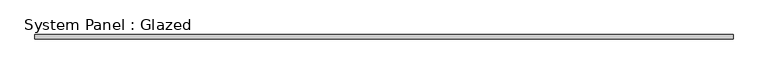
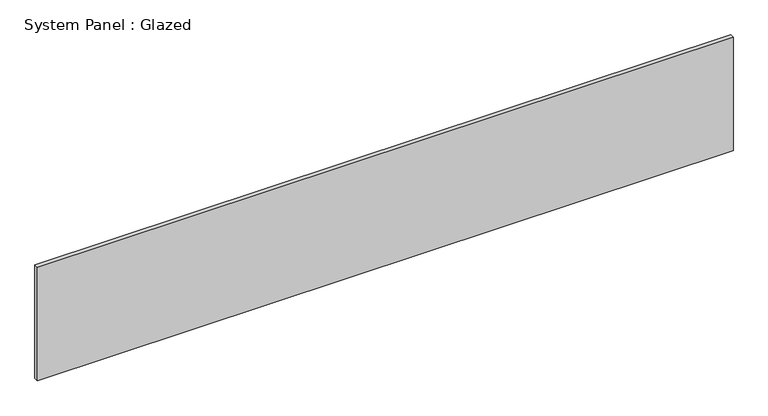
"""IFC4 building model written with IfcOpenShell, lengths in millimetres: plate geometry, System Panel : Glazed."""

import ifcopenshell
import ifcopenshell.guid

model = None  # the IFC model being written
_history = None  # IfcOwnerHistory: only IFC2X3 demands one
_inside = {}  # id of a spatial element -> (the spatial element, [elements in it])
_under = {}  # id of a project, library or spatial element -> (it, [spatial elements below it])
_declared = {}  # id of a project -> (the project, [libraries it declares])
_typed = {}  # id of a type object -> (the type object, [elements of that type])
_made_of = {}  # id of a material, layer set ... -> (it, [elements and type objects made of it])


def new_model(schema):
    """Start an empty IFC model of exactly this schema.

    Asked for "IFC4X3", IfcOpenShell would pick the latest addendum, in which some entities
    have other attributes; the version numbers below select the first issue.
    IFC2X3 requires an IfcOwnerHistory on every rooted entity: one is made here for all.
    """
    global model, _history
    if schema == "IFC4X3":
        model = ifcopenshell.file(schema_version=(4, 3, 0, 0))
    else:
        model = ifcopenshell.file(schema=schema)
    _inside.clear()
    _under.clear()
    _declared.clear()
    _typed.clear()
    _made_of.clear()
    _history = None
    if model.schema == "IFC2X3":
        org = make("IfcOrganization", Name="unknown")
        user = make(
            "IfcPersonAndOrganization",
            ThePerson=make("IfcPerson", FamilyName="unknown"),
            TheOrganization=org,
        )
        app = make(
            "IfcApplication",
            ApplicationDeveloper=org,
            Version="unknown",
            ApplicationFullName="unknown",
            ApplicationIdentifier="unknown",
        )
        _history = make(
            "IfcOwnerHistory",
            OwningUser=user,
            OwningApplication=app,
            ChangeAction="ADDED",
            CreationDate=0,
        )
    return model


def make(cls, **values):
    """One entity of the class cls with the attributes given. An attribute that is None is left unset."""
    return model.create_entity(
        cls, **{name: value for name, value in values.items() if value is not None}
    )


def rooted(cls, **values):
    """An entity with a GlobalId (a new one), such as an element, a storey or a relation."""
    return make(cls, GlobalId=ifcopenshell.guid.new(), OwnerHistory=_history, **values)


def si_unit(unit_type, name, prefix=None):
    """IfcSIUnit, for example si_unit("LENGTHUNIT", "METRE", prefix="MILLI")."""
    return make("IfcSIUnit", UnitType=unit_type, Prefix=prefix, Name=name)


def assignment(units):
    """IfcUnitAssignment: the units of a project."""
    return None if units is None else make("IfcUnitAssignment", Units=units)


def point(xyz):
    """IfcCartesianPoint."""
    return None if xyz is None else make("IfcCartesianPoint", Coordinates=xyz)


def direction(xyz):
    """IfcDirection."""
    return None if xyz is None else make("IfcDirection", DirectionRatios=xyz)


def frame(location, z_axis=None, x_axis=None):
    """IfcAxis2Placement3D, a coordinate frame: its origin and axes. An axis left out is left unset."""
    return make(
        "IfcAxis2Placement3D",
        Location=point(location),
        Axis=direction(z_axis),
        RefDirection=direction(x_axis),
    )


def origin():
    """The frame at (0, 0, 0) with its axes left unset."""
    return frame((0.0, 0.0, 0.0))


def origin_with_axes():
    """The frame at (0, 0, 0) with the z axis (0, 0, 1) and the x axis (1, 0, 0) written out."""
    return frame((0.0, 0.0, 0.0), z_axis=(0.0, 0.0, 1.0), x_axis=(1.0, 0.0, 0.0))


def place(relative_to, where):
    """IfcLocalPlacement: puts the frame where relative to a parent placement (None: the world)."""
    return make(
        "IfcLocalPlacement", PlacementRelTo=relative_to, RelativePlacement=where
    )


def context(
    kind, dimensions, precision=None, world=None, true_north=None, identifier=None
):
    """IfcGeometricRepresentationContext, for example the 3D "Model" context."""
    return make(
        "IfcGeometricRepresentationContext",
        ContextIdentifier=identifier,
        ContextType=kind,
        CoordinateSpaceDimension=dimensions,
        Precision=precision,
        WorldCoordinateSystem=world,
        TrueNorth=true_north,
    )


def project(units=None, contexts=None):
    """IfcProject with its units and contexts."""
    return rooted(
        "IfcProject",
        Name="project",
        RepresentationContexts=contexts,
        UnitsInContext=assignment(units),
    )


def spatial(cls, under=None, at=None, **own):
    """A site, building, storey or space (cls), placed at a placement, below another one or the project."""
    s = rooted(cls, ObjectPlacement=at, **own)
    if under is not None:
        _under.setdefault(under.id(), (under, []))[1].append(s)
    return s


def polyline(points):
    """IfcPolyline through the points."""
    return make("IfcPolyline", Points=[point(p) for p in points])


def outline(outer, holes=None, kind="AREA"):
    """IfcArbitraryClosedProfileDef: a profile drawn as a closed curve; with holes, ...WithVoids."""
    if holes is None:
        return make("IfcArbitraryClosedProfileDef", ProfileType=kind, OuterCurve=outer)
    return make(
        "IfcArbitraryProfileDefWithVoids",
        ProfileType=kind,
        OuterCurve=outer,
        InnerCurves=holes,
    )


def extrude(swept, where, along, depth):
    """IfcExtrudedAreaSolid: the profile swept, set in the frame where, extruded along a direction by depth."""
    return make(
        "IfcExtrudedAreaSolid",
        SweptArea=swept,
        Position=where,
        ExtrudedDirection=direction(along),
        Depth=depth,
    )


def shape(context_of_items, identifier, shape_type, items):
    """IfcShapeRepresentation: the items that make up one representation, for example the "Body"."""
    return make(
        "IfcShapeRepresentation",
        ContextOfItems=context_of_items,
        RepresentationIdentifier=identifier,
        RepresentationType=shape_type,
        Items=items,
    )


def source(mapping_origin, context_of_items, identifier, shape_type, items):
    """IfcRepresentationMap: a shape defined once, which mapped items show again and again."""
    return make(
        "IfcRepresentationMap",
        MappingOrigin=mapping_origin,
        MappedRepresentation=shape(context_of_items, identifier, shape_type, items),
    )


def transform(
    local_origin,
    x_axis=None,
    y_axis=None,
    z_axis=None,
    scale=None,
    scale2=None,
    scale3=None,
    uniform=True,
):
    """IfcCartesianTransformationOperator3D, or its non-uniform kind. x_axis, y_axis, z_axis: its Axis1, 2, 3."""
    if uniform:
        return make(
            "IfcCartesianTransformationOperator3D",
            Axis1=direction(x_axis),
            Axis2=direction(y_axis),
            LocalOrigin=point(local_origin),
            Scale=scale,
            Axis3=direction(z_axis),
        )
    return make(
        "IfcCartesianTransformationOperator3DnonUniform",
        Axis1=direction(x_axis),
        Axis2=direction(y_axis),
        LocalOrigin=point(local_origin),
        Scale=scale,
        Axis3=direction(z_axis),
        Scale2=scale2,
        Scale3=scale3,
    )


def mapped(mapping_source, mapping_target):
    """IfcMappedItem: shows the shape of a source again, moved by a transform."""
    return make(
        "IfcMappedItem", MappingSource=mapping_source, MappingTarget=mapping_target
    )


def made_of(thing, what):
    """Note that an element or type object is made of a material, layer set ...; save() writes the relation."""
    if what is not None:
        _made_of.setdefault(what.id(), (what, []))[1].append(thing)
    return thing


def element(
    cls,
    number,
    at=None,
    inside=None,
    cuts=None,
    type_object=None,
    material=None,
    context=None,
    identifier="Body",
    shape_type=None,
    held_by="IfcProductDefinitionShape",
    body=None,
    shapes=None,
    **own,
):
    """One element of the class cls, such as IfcWall. Its Tag is "e" and its number.

    at: its placement. inside: the storey or other place that contains it. cuts: it is an
    opening in that element (IfcRelVoidsElement). A single representation is given by context,
    identifier, shape_type and body (its items); several are given by shapes. held_by: the class
    of the entity that holds the representations. save() writes the other relations.
    """
    e = rooted(cls, Tag="e%d" % number, ObjectPlacement=at, **own)
    if body is not None:
        shapes = [shape(context, identifier, shape_type, body)]
    if shapes is not None:
        e.Representation = make(held_by, Representations=shapes)
    if inside is not None:
        _inside.setdefault(inside.id(), (inside, []))[1].append(e)
    if cuts is not None:
        rooted(
            "IfcRelVoidsElement", RelatingBuildingElement=cuts, RelatedOpeningElement=e
        )
    if type_object is not None:
        _typed.setdefault(type_object.id(), (type_object, []))[1].append(e)
    return made_of(e, material)


def aggregate(whole, parts):
    """IfcRelAggregates: a whole, such as a stair, and the parts it consists of."""
    return rooted("IfcRelAggregates", RelatingObject=whole, RelatedObjects=parts)


def save(model, path):
    """Write the relations noted so far, then the file.

    IfcRelAggregates (storeys below a building ...), IfcRelContainedInSpatialStructure (elements
    in a storey), IfcRelDefinesByType, IfcRelAssociatesMaterial and IfcRelDeclares: one each for
    every whole, place, type object, material and project.
    """
    for whole, parts in _under.values():
        aggregate(whole, parts)
    for where, things in _inside.values():
        rooted(
            "IfcRelContainedInSpatialStructure",
            RelatedElements=things,
            RelatingStructure=where,
        )
    for kind, things in _typed.values():
        rooted("IfcRelDefinesByType", RelatedObjects=things, RelatingType=kind)
    for what, things in _made_of.values():
        rooted("IfcRelAssociatesMaterial", RelatedObjects=things, RelatingMaterial=what)
    for by, libraries in _declared.values():
        rooted("IfcRelDeclares", RelatingContext=by, RelatedDefinitions=libraries)
    model.write(path)


def system_panel_glazed_b7b38b86(model_context):
    return source(origin(), model_context, "Body", "SweptSolid", [
        extrude(outline(polyline([(1962.5, 24.5), (-1962.5, 24.5), (-1962.5, 49.5), (1962.5, 49.5), (1962.5, 24.5)])), origin_with_axes(), (0.0, 0.0, 1.0), 676.5075557),
    ])


if __name__ == "__main__":
    model = new_model("IFC4")
    model_context = context("Model", 3, world=origin())
    ifc_project = project(units=[si_unit("LENGTHUNIT", "METRE", prefix="MILLI")], contexts=[model_context])
    site = spatial("IfcSite", under=ifc_project)
    building = spatial("IfcBuilding", under=site)
    placement = place(None, origin())
    system_panel_glazed_shape = system_panel_glazed_b7b38b86(model_context)
    element("IfcPlate", 1, ObjectType="System Panel : Glazed", at=placement, inside=building, context=model_context, shape_type="MappedRepresentation", body=[
        mapped(system_panel_glazed_shape, transform((0.0, 0.0, 0.0), x_axis=(1.0, 0.0, 0.0), y_axis=(0.0, 1.0, 0.0), z_axis=(0.0, 0.0, 1.0))),
    ])
    save(model, "model.ifc")
